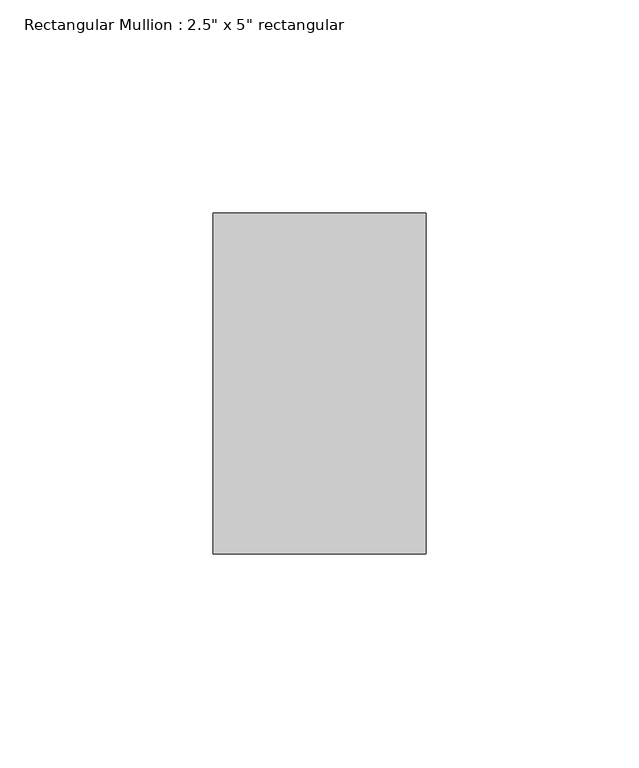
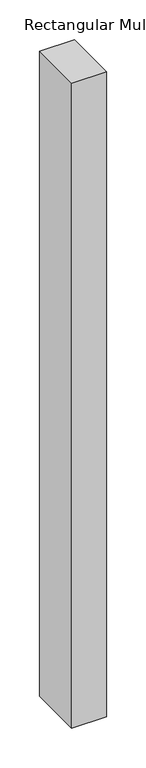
"""IFC4 building model written with IfcOpenShell, lengths in millimetres: member geometry."""

from ifc_helpers import new_model, si_unit, frame, origin, place, context, project, spatial, polyline, outline, extrude, source, transform, mapped, element, save


def member_66f684dc(model_context):
    return source(origin(), model_context, "Body", "SweptSolid", [
        extrude(outline(polyline([(0.0, 40.0), (0.0, -40.0), (-50.0, -40.0), (-50.0, 40.0), (0.0, 40.0)])), frame((0.0, 0.0, -985.0), z_axis=(0.0, 0.0, 1.0), x_axis=(1.0, 0.0, 0.0)), (0.0, 0.0, 1.0), 985.0),
    ])


if __name__ == "__main__":
    model = new_model("IFC4")
    model_context = context("Model", 3, world=origin())
    ifc_project = project(units=[si_unit("LENGTHUNIT", "METRE", prefix="MILLI")], contexts=[model_context])
    site = spatial("IfcSite", under=ifc_project)
    building = spatial("IfcBuilding", under=site)
    placement = place(None, origin())
    member_shape = member_66f684dc(model_context)
    element("IfcMember", 1, ObjectType="Rectangular Mullion : 2.5\" x 5\" rectangular", at=placement, inside=building, context=model_context, shape_type="MappedRepresentation", body=[
        mapped(member_shape, transform((0.0, 0.0, 0.0), x_axis=(1.0, 0.0, 0.0), y_axis=(0.0, 1.0, 0.0), z_axis=(0.0, 0.0, 1.0))),
    ])
    save(model, "model.ifc")
